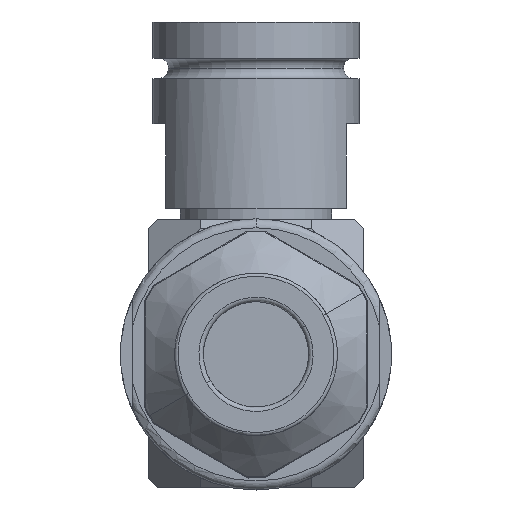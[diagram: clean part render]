
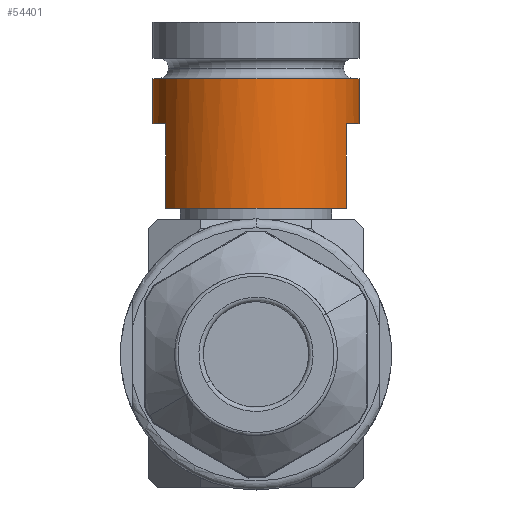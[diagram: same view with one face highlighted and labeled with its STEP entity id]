
A CAD part, front view. The second image highlights one B-rep face of the part: STEP entity #54401.
In plain terms, the highlighted cylindrical face has radius 11.62 mm (diameter 23.241 mm), a partial arc.
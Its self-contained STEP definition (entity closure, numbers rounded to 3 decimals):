
#195 = DIRECTION ( 'NONE',  ( 0., 0., -1. ) ) ;
#474 = DIRECTION ( 'NONE',  ( -1., 0., 0. ) ) ;
#2749 = CARTESIAN_POINT ( 'NONE',  ( 11.621, 0., 2.108 ) ) ;
#2861 = AXIS2_PLACEMENT_3D ( 'NONE', #38738, #15298, #58675 ) ;
#2954 = AXIS2_PLACEMENT_3D ( 'NONE', #52021, #57567, #19971 ) ;
#4981 = VECTOR ( 'NONE', #40427, 1000. ) ;
#5194 = DIRECTION ( 'NONE',  ( 0., 0., -1. ) ) ;
#5221 = CARTESIAN_POINT ( 'NONE',  ( -10.16, -5.64, -12.497 ) ) ;
#8053 = CARTESIAN_POINT ( 'NONE',  ( 10.16, -5.64, -2.972 ) ) ;
#8436 = DIRECTION ( 'NONE',  ( 0., 0., -1. ) ) ;
#10945 = EDGE_CURVE ( 'NONE', #31348, #19418, #51401, .T. ) ;
#13963 = ORIENTED_EDGE ( 'NONE', *, *, #10945, .F. ) ;
#14253 = VECTOR ( 'NONE', #60234, 1000. ) ;
#14808 = VECTOR ( 'NONE', #195, 1000. ) ;
#15003 = CARTESIAN_POINT ( 'NONE',  ( 0., 0., -2.972 ) ) ;
#15298 = DIRECTION ( 'NONE',  ( 0., 0., -1. ) ) ;
#15737 = CARTESIAN_POINT ( 'NONE',  ( 11.621, 0., -2.972 ) ) ;
#16088 = LINE ( 'NONE', #17297, #4981 ) ;
#16554 = EDGE_CURVE ( 'NONE', #60203, #39124, #55201, .T. ) ;
#17297 = CARTESIAN_POINT ( 'NONE',  ( 10.16, -5.64, -2.972 ) ) ;
#19088 = CARTESIAN_POINT ( 'NONE',  ( 0., 0., 2.108 ) ) ;
#19418 = VERTEX_POINT ( 'NONE', #42773 ) ;
#19639 = CARTESIAN_POINT ( 'NONE',  ( 0., 0., 8.458 ) ) ;
#19971 = DIRECTION ( 'NONE',  ( 1., 0., 0. ) ) ;
#22653 = CARTESIAN_POINT ( 'NONE',  ( -11.621, 0., 8.458 ) ) ;
#22715 = CIRCLE ( 'NONE', #2954, 11.621 ) ;
#24580 = DIRECTION ( 'NONE',  ( 0., 0., -1. ) ) ;
#24924 = EDGE_CURVE ( 'NONE', #49069, #56579, #16088, .T. ) ;
#24963 = ORIENTED_EDGE ( 'NONE', *, *, #48117, .F. ) ;
#31348 = VERTEX_POINT ( 'NONE', #50970 ) ;
#31373 = EDGE_CURVE ( 'NONE', #31348, #55856, #41433, .T. ) ;
#31663 = ORIENTED_EDGE ( 'NONE', *, *, #16554, .T. ) ;
#32006 = ORIENTED_EDGE ( 'NONE', *, *, #54606, .F. ) ;
#32878 = EDGE_LOOP ( 'NONE', ( #31663, #57958, #13963, #41870, #36606, #43682, #32006, #24963 ) ) ;
#33869 = CARTESIAN_POINT ( 'NONE',  ( 11.621, 0., 8.458 ) ) ;
#34436 = CIRCLE ( 'NONE', #2861, 11.621 ) ;
#36606 = ORIENTED_EDGE ( 'NONE', *, *, #48147, .F. ) ;
#37117 = CARTESIAN_POINT ( 'NONE',  ( -10.16, -5.64, -2.972 ) ) ;
#37886 = DIRECTION ( 'NONE',  ( 1., 0., 0. ) ) ;
#38738 = CARTESIAN_POINT ( 'NONE',  ( 0., 0., -2.972 ) ) ;
#39124 = VERTEX_POINT ( 'NONE', #41807 ) ;
#40427 = DIRECTION ( 'NONE',  ( 0., 0., -1. ) ) ;
#41433 = LINE ( 'NONE', #37117, #14253 ) ;
#41807 = CARTESIAN_POINT ( 'NONE',  ( -11.621, 0., 2.108 ) ) ;
#41870 = ORIENTED_EDGE ( 'NONE', *, *, #31373, .T. ) ;
#42475 = LINE ( 'NONE', #33869, #14808 ) ;
#42741 = CYLINDRICAL_SURFACE ( 'NONE', #51066, 11.621 ) ;
#42773 = CARTESIAN_POINT ( 'NONE',  ( -11.621, 0., -2.972 ) ) ;
#43682 = ORIENTED_EDGE ( 'NONE', *, *, #24924, .F. ) ;
#43892 = VERTEX_POINT ( 'NONE', #15737 ) ;
#44517 = CARTESIAN_POINT ( 'NONE',  ( 10.16, -5.64, -12.497 ) ) ;
#46743 = DIRECTION ( 'NONE',  ( 1., 0., 0. ) ) ;
#47656 = DIRECTION ( 'NONE',  ( 0., 0., -1. ) ) ;
#48117 = EDGE_CURVE ( 'NONE', #60203, #43892, #42475, .T. ) ;
#48147 = EDGE_CURVE ( 'NONE', #56579, #55856, #22715, .T. ) ;
#49069 = VERTEX_POINT ( 'NONE', #8053 ) ;
#49605 = EDGE_CURVE ( 'NONE', #39124, #19418, #55605, .T. ) ;
#50970 = CARTESIAN_POINT ( 'NONE',  ( -10.16, -5.64, -2.972 ) ) ;
#51066 = AXIS2_PLACEMENT_3D ( 'NONE', #19639, #47656, #46743 ) ;
#51297 = AXIS2_PLACEMENT_3D ( 'NONE', #19088, #5194, #37886 ) ;
#51401 = CIRCLE ( 'NONE', #59283, 11.621 ) ;
#51995 = FACE_OUTER_BOUND ( 'NONE', #32878, .T. ) ;
#52021 = CARTESIAN_POINT ( 'NONE',  ( 0., 0., -12.497 ) ) ;
#54401 = ADVANCED_FACE ( 'NONE', ( #51995 ), #42741, .T. ) ;
#54606 = EDGE_CURVE ( 'NONE', #43892, #49069, #34436, .T. ) ;
#55201 = CIRCLE ( 'NONE', #51297, 11.621 ) ;
#55605 = LINE ( 'NONE', #22653, #60144 ) ;
#55856 = VERTEX_POINT ( 'NONE', #5221 ) ;
#56579 = VERTEX_POINT ( 'NONE', #44517 ) ;
#57567 = DIRECTION ( 'NONE',  ( 0., 0., -1. ) ) ;
#57958 = ORIENTED_EDGE ( 'NONE', *, *, #49605, .T. ) ;
#58675 = DIRECTION ( 'NONE',  ( 1., 0., 0. ) ) ;
#59283 = AXIS2_PLACEMENT_3D ( 'NONE', #15003, #24580, #474 ) ;
#60144 = VECTOR ( 'NONE', #8436, 1000. ) ;
#60203 = VERTEX_POINT ( 'NONE', #2749 ) ;
#60234 = DIRECTION ( 'NONE',  ( 0., 0., -1. ) ) ;
